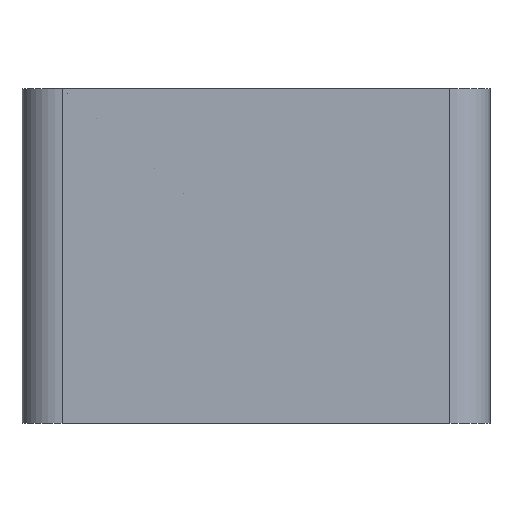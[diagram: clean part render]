
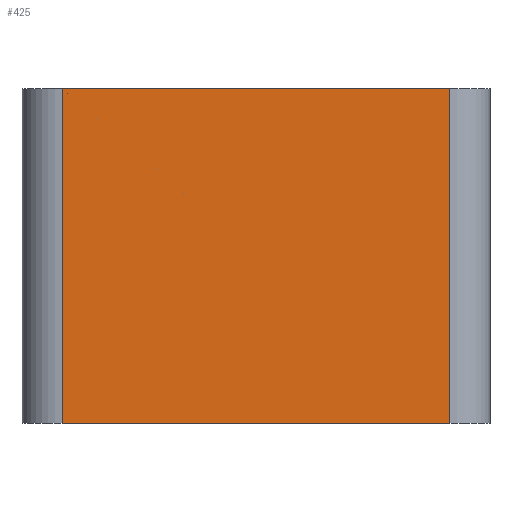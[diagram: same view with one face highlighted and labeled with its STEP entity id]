
A CAD part, front view. The second image highlights one B-rep face of the part: STEP entity #425.
In plain terms, the highlighted planar face has unit normal (0, -1, 0).
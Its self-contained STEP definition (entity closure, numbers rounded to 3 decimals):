
#425=ADVANCED_FACE('',(#692),#582,.T.);
#582=PLANE('',#2772);
#692=FACE_OUTER_BOUND('',#843,.T.);
#843=EDGE_LOOP('',(#1140,#1141,#1142,#1143));
#1140=ORIENTED_EDGE('',*,*,#2181,.T.);
#1141=ORIENTED_EDGE('',*,*,#2182,.T.);
#1142=ORIENTED_EDGE('',*,*,#2173,.T.);
#1143=ORIENTED_EDGE('',*,*,#2183,.T.);
#1906=VERTEX_POINT('',#4050);
#1907=VERTEX_POINT('',#4052);
#1914=VERTEX_POINT('',#4086);
#1915=VERTEX_POINT('',#4087);
#2173=EDGE_CURVE('',#1907,#1906,#2466,.T.);
#2181=EDGE_CURVE('',#1914,#1915,#2467,.T.);
#2182=EDGE_CURVE('',#1915,#1907,#2468,.T.);
#2183=EDGE_CURVE('',#1906,#1914,#2469,.T.);
#2466=LINE('',#4051,#2608);
#2467=LINE('',#4085,#2609);
#2468=LINE('',#4088,#2610);
#2469=LINE('',#4089,#2611);
#2608=VECTOR('',#2966,1.);
#2609=VECTOR('',#2971,1.);
#2610=VECTOR('',#2972,1.);
#2611=VECTOR('',#2973,1.);
#2772=AXIS2_PLACEMENT_3D('',#4090,#2974,#2975);
#2966=DIRECTION('',(-1.,0.,0.));
#2971=DIRECTION('',(1.,0.,0.));
#2972=DIRECTION('',(0.,0.,1.));
#2973=DIRECTION('',(0.,0.,-1.));
#2974=DIRECTION('',(0.,-1.,0.));
#2975=DIRECTION('',(0.,0.,-1.));
#4050=CARTESIAN_POINT('',(3.,0.,25.));
#4051=CARTESIAN_POINT('',(17.5,0.,25.));
#4052=CARTESIAN_POINT('',(32.,0.,25.));
#4085=CARTESIAN_POINT('',(17.5,0.,0.));
#4086=CARTESIAN_POINT('',(3.,0.,0.));
#4087=CARTESIAN_POINT('',(32.,0.,0.));
#4088=CARTESIAN_POINT('',(32.,0.,0.));
#4089=CARTESIAN_POINT('',(3.,0.,0.));
#4090=CARTESIAN_POINT('',(17.5,0.,0.));
